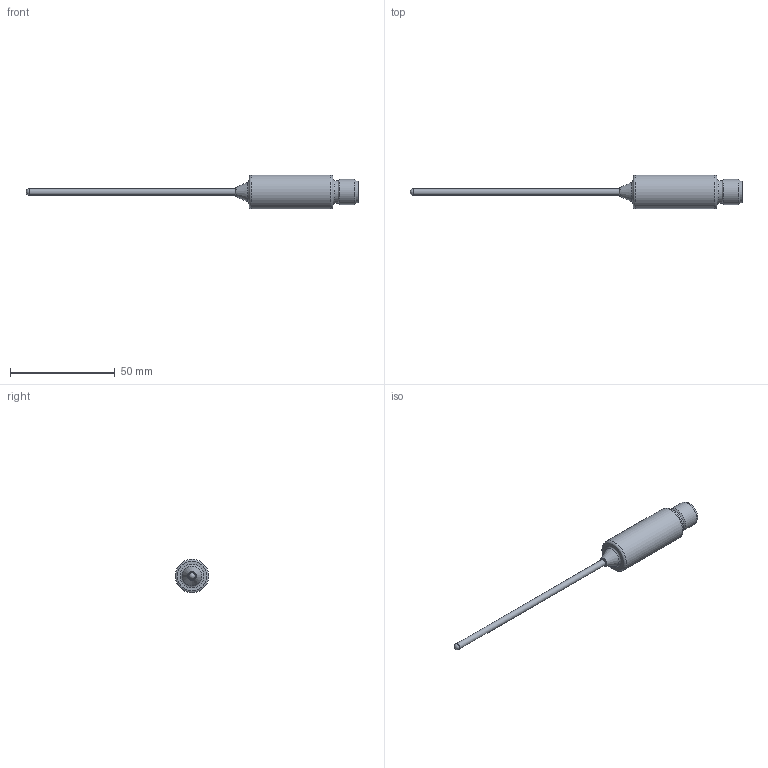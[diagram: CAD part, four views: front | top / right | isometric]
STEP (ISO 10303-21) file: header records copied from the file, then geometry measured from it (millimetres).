
FILE_DESCRIPTION (( 'STEP AP203' ), '1' );
FILE_NAME ('TTMS-203A-CF-H1-L100.step', '2019-11-11T20:55:27', ( '' ), ( '' ), 'SwSTEP 2.0', 'SolidWorks 2017', '' );
FILE_SCHEMA (( 'CONFIG_CONTROL_DESIGN' ));
Length unit declared in the file: millimetre
Products named in the file (1): TTMS-203A-CF-H1-L100
Bounding box: 158.49 x 16 x 16 mm (x, y, z)
Volume: 9788.8 mm3; surface area: 4190.5 mm2
Topology: 1 solids, 1 shells, 69 faces, 164 edges, 104 vertices
Faces by surface type: cylinder 29, plane 22, cone 7, torus 6, bspline 4, sphere 1
Full cylindrical faces by diameter (mm): 1 x8, 3 x1, 8.3 x1, 10.5 x1, 10.7 x1, 12 x1, 16 x1
Entity records: 2685 total; most frequent: CARTESIAN_POINT 1160, DIRECTION 326, ORIENTED_EDGE 244, AXIS2_PLACEMENT_3D 140, EDGE_CURVE 122, EDGE_LOOP 108, VERTEX_POINT 94, FACE_OUTER_BOUND 92
